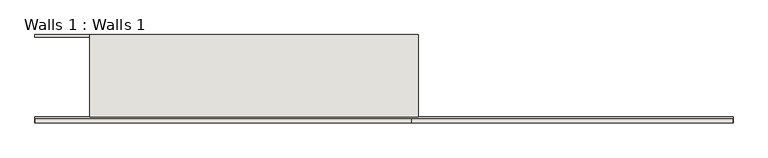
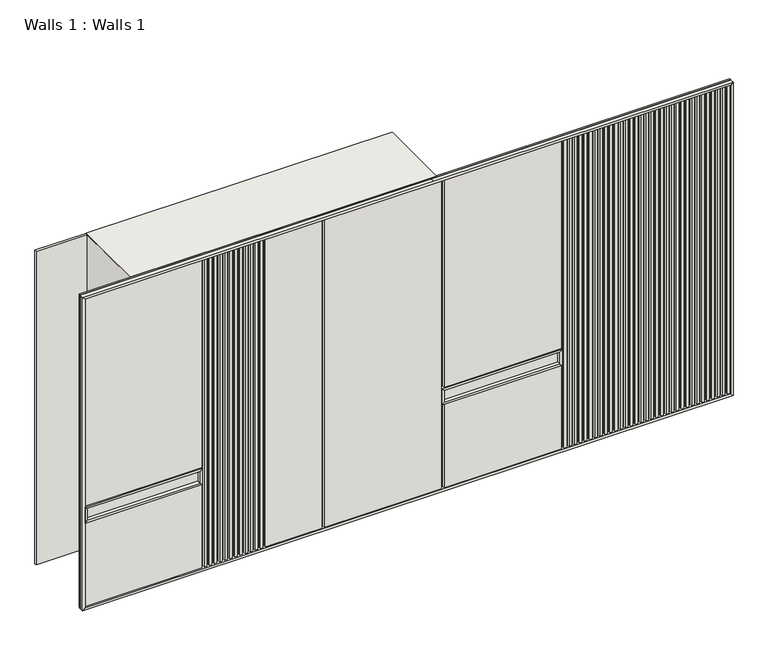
"""IFC4 building model written with IfcOpenShell, lengths in millimetres: wall geometry, Walls 1 : Walls 1."""

from ifc_helpers import new_model, si_unit, point, frame, frame_2d, origin, origin_with_axes, place, context, project, spatial, polyline, circle_curve, trimmed, segment, composite_curve, outline, extrude, faceted_brep, source, transform, mapped, element, save


def walls_1_walls_1_aaefc54a(model_context):
    return source(origin(), model_context, "Body", "SolidModel", [
        extrude(outline(polyline([(-645.57126, 2244.5768874), (126.42874, 2244.5768874), (126.42874, 1744.5768874), (-645.57126, 1744.5768874), (-645.57126, 2244.5768874)])), frame((0.0, 0.0, 1704.0), z_axis=(0.0, 0.0, 1.0), x_axis=(1.0, 0.0, 0.0)), (0.0, 0.0, 1.0), 16.0),
        extrude(outline(polyline([(-2192.47126, 2244.5768874), (-1436.57126, 2244.5768874), (-1436.57126, 1744.5768874), (-2192.47126, 1744.5768874), (-2192.47126, 2244.5768874)])), frame((0.0, 0.0, 1704.0), z_axis=(0.0, 0.0, 1.0), x_axis=(1.0, 0.0, 0.0)), (0.0, 0.0, 1.0), 16.0),
        extrude(outline(polyline([(-662.57126, 2244.5768874), (-646.57126, 2244.5768874), (-646.57126, 1744.5768874), (-662.57126, 1744.5768874), (-662.57126, 2244.5768874)])), frame((0.0, 0.0, 40.0), z_axis=(0.0, 0.0, 1.0), x_axis=(1.0, 0.0, 0.0)), (0.0, 0.0, 1.0), 2078.0),
        extrude(outline(polyline([(-1435.57126, 2244.5768874), (-1419.57126, 2244.5768874), (-1419.57126, 1744.5768874), (-1435.57126, 1744.5768874), (-1435.57126, 2244.5768874)])), frame((0.0, 0.0, 40.0), z_axis=(0.0, 0.0, 1.0), x_axis=(1.0, 0.0, 0.0)), (0.0, 0.0, 1.0), 2079.0),
        extrude(outline(polyline([(-1418.57126, 2244.5768874), (-663.57126, 2244.5768874), (-663.57126, 1744.5768874), (-1418.57126, 1744.5768874), (-1418.57126, 2244.5768874)])), frame((0.0, 0.0, 788.0), z_axis=(0.0, 0.0, 1.0), x_axis=(1.0, 0.0, 0.0)), (0.0, 0.0, 1.0), 16.0),
        extrude(outline(polyline([(-2191.57126, 2244.5768874), (-1436.57126, 2244.5768874), (-1436.57126, 1744.5768874), (-2191.57126, 1744.5768874), (-2191.57126, 2244.5768874)])), frame((0.0, 0.0, 788.0), z_axis=(0.0, 0.0, 1.0), x_axis=(1.0, 0.0, 0.0)), (0.0, 0.0, 1.0), 16.0),
        extrude(outline(polyline([(-1048.57126, 2244.5768874), (-1032.57126, 2244.5768874), (-1032.57126, 1744.5768874), (-1048.57126, 1744.5768874), (-1048.57126, 2244.5768874)])), frame((0.0, 0.0, 40.0), z_axis=(0.0, 0.0, 1.0), x_axis=(1.0, 0.0, 0.0)), (0.0, 0.0, 1.0), 747.0),
        extrude(outline(polyline([(-1031.57126, 2244.5768874), (-663.57126, 2244.5768874), (-663.57126, 1744.5768874), (-1031.57126, 1744.5768874), (-1031.57126, 2244.5768874)])), frame((0.0, 0.0, 538.6666667), z_axis=(0.0, 0.0, 1.0), x_axis=(1.0, 0.0, 0.0)), (0.0, 0.0, 1.0), 16.0),
        extrude(outline(polyline([(-1031.57126, 2244.5768874), (-663.57126, 2244.5768874), (-663.57126, 1744.5768874), (-1031.57126, 1744.5768874), (-1031.57126, 2244.5768874)])), frame((0.0, 0.0, 289.3333333), z_axis=(0.0, 0.0, 1.0), x_axis=(1.0, 0.0, 0.0)), (0.0, 0.0, 1.0), 16.0),
        extrude(outline(polyline([(-1418.57126, 2244.5768874), (-1049.57126, 2244.5768874), (-1049.57126, 1744.5768874), (-1418.57126, 1744.5768874), (-1418.57126, 2244.5768874)])), frame((0.0, 0.0, 538.6666667), z_axis=(0.0, 0.0, 1.0), x_axis=(1.0, 0.0, 0.0)), (0.0, 0.0, 1.0), 16.0),
        extrude(outline(polyline([(-1418.57126, 2244.5768874), (-1049.57126, 2244.5768874), (-1049.57126, 1744.5768874), (-1418.57126, 1744.5768874), (-1418.57126, 2244.5768874)])), frame((0.0, 0.0, 289.3333333), z_axis=(0.0, 0.0, 1.0), x_axis=(1.0, 0.0, 0.0)), (0.0, 0.0, 1.0), 16.0),
        extrude(outline(polyline([(-1418.57126, 2244.5768874), (-663.57126, 2244.5768874), (-663.57126, 1744.5768874), (-1418.57126, 1744.5768874), (-1418.57126, 2244.5768874)])), frame((0.0, 0.0, 1704.0), z_axis=(0.0, 0.0, 1.0), x_axis=(1.0, 0.0, 0.0)), (0.0, 0.0, 1.0), 16.0),
        extrude(outline(polyline([(-2162.57126, 2328.5768874), (-1322.57126, 2328.5768874), (-1322.57126, 2322.5768874), (-2162.57126, 2322.5768874), (-2162.57126, 2328.5768874)])), frame((0.0, 0.0, 65.0), z_axis=(0.0, 0.0, 1.0), x_axis=(1.0, 0.0, 0.0)), (0.0, 0.0, 1.0), 2030.0),
        extrude(outline(polyline([(-1757.576549, 2334.5768874), (-1744.6735428, 2334.5768874), (-1744.6735428, 2316.5768874), (-1757.576549, 2316.5768874), (-1757.576549, 2334.5768874)])), frame((0.0, 0.0, 2120.0), z_axis=(0.0, 0.0, 1.0), x_axis=(1.0, 0.0, 0.0)), (0.0, 0.0, 1.0), 1.94884),
        extrude(outline(composite_curve([segment(trimmed(circle_curve(frame_2d((2125.9598198, -1751.123831)), 4.0401802), [point((2125.9598198, -1755.1640112))], [point((2125.9598198, -1747.0836508))], False, "CARTESIAN"), True, "CONTINUOUS"), segment(trimmed(circle_curve(frame_2d((2125.9598198, -1751.123831)), 4.0401802), [point((2125.9598198, -1747.0836508))], [point((2125.9598198, -1755.1640112))], False, "CARTESIAN"), True, "CONTINUOUS")], self_intersect=False)), frame((0.0, 2320.5768874, 0.0), z_axis=(0.0, 1.0, 0.0), x_axis=(0.0, 0.0, 1.0)), (0.0, 0.0, 1.0), 10.0),
        extrude(outline(polyline([(-2147.576549, 2334.5768874), (-2134.6735428, 2334.5768874), (-2134.6735428, 2316.5768874), (-2147.576549, 2316.5768874), (-2147.576549, 2334.5768874)])), frame((0.0, 0.0, 2120.0), z_axis=(0.0, 0.0, 1.0), x_axis=(1.0, 0.0, 0.0)), (0.0, 0.0, 1.0), 1.94884),
        extrude(outline(composite_curve([segment(trimmed(circle_curve(frame_2d((2125.9598198, -2141.123831)), 4.0401802), [point((2125.9598198, -2145.1640112))], [point((2125.9598198, -2137.0836508))], False, "CARTESIAN"), True, "CONTINUOUS"), segment(trimmed(circle_curve(frame_2d((2125.9598198, -2141.123831)), 4.0401802), [point((2125.9598198, -2137.0836508))], [point((2125.9598198, -2145.1640112))], False, "CARTESIAN"), True, "CONTINUOUS")], self_intersect=False)), frame((0.0, 2320.5768874, 0.0), z_axis=(0.0, 1.0, 0.0), x_axis=(0.0, 0.0, 1.0)), (0.0, 0.0, 1.0), 10.0),
        extrude(outline(polyline([(-1359.3925006, 2334.5768874), (-1346.4894944, 2334.5768874), (-1346.4894944, 2316.5768874), (-1359.3925006, 2316.5768874), (-1359.3925006, 2334.5768874)])), frame((0.0, 0.0, 2120.0), z_axis=(0.0, 0.0, 1.0), x_axis=(1.0, 0.0, 0.0)), (0.0, 0.0, 1.0), 1.94884),
        extrude(outline(composite_curve([segment(trimmed(circle_curve(frame_2d((2125.9598198, -1352.9397826)), 4.0401802), [point((2125.9598198, -1356.9799629))], [point((2125.9598198, -1348.8996024))], False, "CARTESIAN"), True, "CONTINUOUS"), segment(trimmed(circle_curve(frame_2d((2125.9598198, -1352.9397826)), 4.0401802), [point((2125.9598198, -1348.8996024))], [point((2125.9598198, -1356.9799629))], False, "CARTESIAN"), True, "CONTINUOUS")], self_intersect=False)), frame((0.0, 2320.5768874, 0.0), z_axis=(0.0, 1.0, 0.0), x_axis=(0.0, 0.0, 1.0)), (0.0, 0.0, 1.0), 10.0),
        extrude(outline(polyline([(2120.0, -1298.2783668), (2120.0, -2186.8641532), (2085.0, -2151.8641532), (2085.0, -1333.2783668), (2120.0, -1298.2783668)])), frame((0.0, 2312.5768874, 0.0), z_axis=(0.0, 1.0, 0.0), x_axis=(0.0, 0.0, 1.0)), (0.0, 0.0, 1.0), 26.0),
        extrude(outline(polyline([(2119.2928932, -2187.57126), (40.7071068, -2187.57126), (75.7071068, -2152.57126), (2084.2928932, -2152.57126), (2119.2928932, -2187.57126)])), frame((0.0, 2312.5768874, 0.0), z_axis=(0.0, 1.0, 0.0), x_axis=(0.0, 0.0, 1.0)), (0.0, 0.0, 1.0), 26.0),
        extrude(outline(polyline([(40.7071068, -1297.57126), (2119.2928932, -1297.57126), (2084.2928932, -1332.57126), (75.7071068, -1332.57126), (40.7071068, -1297.57126)])), frame((0.0, 2312.5768874, 0.0), z_axis=(0.0, 1.0, 0.0), x_axis=(0.0, 0.0, 1.0)), (0.0, 0.0, 1.0), 26.0),
        extrude(outline(polyline([(40.0, -1298.2783668), (75.0, -1333.2783668), (75.0, -2151.8641532), (40.0, -2186.8641532), (40.0, -1298.2783668)])), frame((0.0, 2312.5768874, 0.0), z_axis=(0.0, 1.0, 0.0), x_axis=(0.0, 0.0, 1.0)), (0.0, 0.0, 1.0), 26.0),
        faceted_brep([(-2232.57126, 2344.5768874, 0.7071068), (-2232.57126, 2344.5768874, 2599.2928932), (-2192.57126, 2344.5768874, 2559.2928932), (-2192.57126, 2344.5768874, 40.7071068), (-2232.57126, 1744.5768874, 0.7071068), (-2192.57126, 1744.5768874, 40.7071068), (-2192.57126, 1744.5768874, 2559.2928932), (-2232.57126, 1744.5768874, 2599.2928932)], [[[0, 1, 2, 3]], [[4, 5, 6, 7]], [[1, 0, 4, 7]], [[2, 1, 7, 6]], [[3, 2, 6, 5]], [[0, 3, 5, 4]]]),
        faceted_brep([(166.7216332, 2344.5768874, 2600.0), (126.7216332, 2344.5768874, 2560.0), (-2191.8641532, 2344.5768874, 2560.0), (-2231.8641532, 2344.5768874, 2600.0), (166.7216332, 1744.5768874, 2600.0), (-2231.8641532, 1744.5768874, 2600.0), (-2191.8641532, 1744.5768874, 2560.0), (126.7216332, 1744.5768874, 2560.0)], [[[0, 1, 2, 3]], [[4, 5, 6, 7]], [[1, 0, 4, 7]], [[2, 1, 7, 6]], [[3, 2, 6, 5]], [[0, 3, 5, 4]]]),
        faceted_brep([(167.42874, 2344.5768874, 0.7071068), (127.42874, 2344.5768874, 40.7071068), (127.42874, 2344.5768874, 2559.2928932), (167.42874, 2344.5768874, 2599.2928932), (167.42874, 1744.5768874, 0.7071068), (167.42874, 1744.5768874, 2599.2928932), (127.42874, 1744.5768874, 2559.2928932), (127.42874, 1744.5768874, 40.7071068)], [[[0, 1, 2, 3]], [[4, 5, 6, 7]], [[1, 0, 4, 7]], [[2, 1, 7, 6]], [[3, 2, 6, 5]], [[0, 3, 5, 4]]]),
        faceted_brep([(166.7216332, 2344.5768874, 0.0), (-2231.8641532, 2344.5768874, 0.0), (-2191.8641532, 2344.5768874, 40.0), (126.7216332, 2344.5768874, 40.0), (166.7216332, 1744.5768874, 0.0), (126.7216332, 1744.5768874, 40.0), (-2191.8641532, 1744.5768874, 40.0), (-2231.8641532, 1744.5768874, 0.0), (-2181.8641532, 2334.5768874, 40.0), (117.42874, 2334.5768874, 40.0), (117.42874, 2316.5768874, 40.0), (-2181.8641532, 2316.5768874, 40.0), (-2181.8641532, 2306.5768874, 40.0), (117.42874, 2306.5768874, 40.0), (117.42874, 2288.5768874, 40.0), (-2181.8641532, 2288.5768874, 40.0), (-2181.8641532, 2334.5768874, 30.0), (-2181.8641532, 2316.5768874, 30.0), (117.42874, 2316.5768874, 30.0), (117.42874, 2334.5768874, 30.0), (-2181.8641532, 2306.5768874, 30.0), (-2181.8641532, 2288.5768874, 30.0), (117.42874, 2288.5768874, 30.0), (117.42874, 2306.5768874, 30.0)], [[[0, 1, 2, 3]], [[4, 5, 6, 7]], [[1, 0, 4, 7]], [[2, 1, 7, 6]], [[3, 2, 6, 5], [8, 9, 10, 11], [12, 13, 14, 15]], [[0, 3, 5, 4]], [[16, 17, 18, 19]], [[20, 21, 22, 23]], [[16, 19, 9, 8]], [[19, 18, 10, 9]], [[18, 17, 11, 10]], [[17, 16, 8, 11]], [[20, 23, 13, 12]], [[23, 22, 14, 13]], [[22, 21, 15, 14]], [[21, 20, 12, 15]]]),
        faceted_brep([(-2191.57126, 2344.5768874, 2160.0), (126.42874, 2344.5768874, 2160.0), (126.42874, 2344.5768874, 2120.0), (-2191.57126, 2344.5768874, 2120.0), (-2191.57126, 1744.5768874, 2160.0), (-2191.57126, 1744.5768874, 2120.0), (126.42874, 1744.5768874, 2120.0), (126.42874, 1744.5768874, 2160.0)], [[[0, 1, 2, 3]], [[4, 5, 6, 7]], [[1, 0, 4, 7]], [[2, 1, 7, 6]], [[3, 2, 6, 5]], [[0, 3, 5, 4]]]),
        extrude(outline(polyline([(-2187.57126, 2344.5768874), (-1035.4647547, 2344.5768874), (-1035.4647547, 2328.5768874), (-2187.57126, 2328.5768874), (-2187.57126, 2344.5768874)])), frame((0.0, 0.0, 2165.0), z_axis=(0.0, 0.0, 1.0), x_axis=(1.0, 0.0, 0.0)), (0.0, 0.0, 1.0), 390.0),
        extrude(outline(polyline([(-1030.4647547, 2344.5768874), (122.42874, 2344.5768874), (122.42874, 2328.5768874), (-1030.4647547, 2328.5768874), (-1030.4647547, 2344.5768874)])), frame((0.0, 0.0, 2165.0), z_axis=(0.0, 0.0, 1.0), x_axis=(1.0, 0.0, 0.0)), (0.0, 0.0, 1.0), 390.0),
        extrude(outline(polyline([(-2632.57126, 2344.5768874), (-2232.57126, 2344.5768874), (-2232.57126, 2328.5768874), (-2632.57126, 2328.5768874), (-2632.57126, 2344.5768874)])), origin_with_axes(), (0.0, 0.0, 1.0), 2599.2928932),
        extrude(outline(polyline([(852.0, -2610.8641532), (836.0, -2594.8641532), (836.0, -1710.2783668), (852.0, -1694.2783668), (852.0, -2610.8641532)])), frame((0.0, 1698.5768874, 0.0), z_axis=(0.0, 1.0, 0.0), x_axis=(0.0, 0.0, 1.0)), (0.0, 0.0, 1.0), 30.0),
        extrude(outline(polyline([(851.2928932, -1693.57126), (835.2928932, -1709.57126), (736.7071068, -1709.57126), (720.7071068, -1693.57126), (851.2928932, -1693.57126)])), frame((0.0, 1698.5768874, 0.0), z_axis=(0.0, 1.0, 0.0), x_axis=(0.0, 0.0, 1.0)), (0.0, 0.0, 1.0), 30.0),
        extrude(outline(polyline([(720.0, -2610.8641532), (720.0, -1694.2783668), (736.0, -1710.2783668), (736.0, -2594.8641532), (720.0, -2610.8641532)])), frame((0.0, 1698.5768874, 0.0), z_axis=(0.0, 1.0, 0.0), x_axis=(0.0, 0.0, 1.0)), (0.0, 0.0, 1.0), 30.0),
        extrude(outline(polyline([(851.2928932, -2611.57126), (720.7071068, -2611.57126), (736.7071068, -2595.57126), (835.2928932, -2595.57126), (851.2928932, -2611.57126)])), frame((0.0, 1698.5768874, 0.0), z_axis=(0.0, 1.0, 0.0), x_axis=(0.0, 0.0, 1.0)), (0.0, 0.0, 1.0), 30.0),
        extrude(outline(polyline([(852.0, 189.1358468), (836.0, 205.1358468), (836.0, 1109.7216332), (852.0, 1125.7216332), (852.0, 189.1358468)])), frame((0.0, 1698.5768874, 0.0), z_axis=(0.0, 1.0, 0.0), x_axis=(0.0, 0.0, 1.0)), (0.0, 0.0, 1.0), 30.0),
        extrude(outline(polyline([(851.2928932, 1126.42874), (835.2928932, 1110.42874), (736.7071068, 1110.42874), (720.7071068, 1126.42874), (851.2928932, 1126.42874)])), frame((0.0, 1698.5768874, 0.0), z_axis=(0.0, 1.0, 0.0), x_axis=(0.0, 0.0, 1.0)), (0.0, 0.0, 1.0), 30.0),
        extrude(outline(polyline([(720.0, 189.1358468), (720.0, 1125.7216332), (736.0, 1109.7216332), (736.0, 205.1358468), (720.0, 189.1358468)])), frame((0.0, 1698.5768874, 0.0), z_axis=(0.0, 1.0, 0.0), x_axis=(0.0, 0.0, 1.0)), (0.0, 0.0, 1.0), 30.0),
        extrude(outline(polyline([(851.2928932, 188.42874), (720.7071068, 188.42874), (736.7071068, 204.42874), (835.2928932, 204.42874), (851.2928932, 188.42874)])), frame((0.0, 1698.5768874, 0.0), z_axis=(0.0, 1.0, 0.0), x_axis=(0.0, 0.0, 1.0)), (0.0, 0.0, 1.0), 30.0),
        extrude(outline(polyline([(2447.42874, 1708.5768874), (2427.42874, 1708.5768874), (2427.42874, 1728.5768874), (2447.42874, 1728.5768874), (2447.42874, 1708.5768874)])), frame((0.0, 0.0, 20.0), z_axis=(0.0, 0.0, 1.0), x_axis=(1.0, 0.0, 0.0)), (0.0, 0.0, 1.0), 2560.0),
        extrude(outline(polyline([(2407.42874, 1708.5768874), (2387.42874, 1708.5768874), (2387.42874, 1728.5768874), (2407.42874, 1728.5768874), (2407.42874, 1708.5768874)])), frame((0.0, 0.0, 20.0), z_axis=(0.0, 0.0, 1.0), x_axis=(1.0, 0.0, 0.0)), (0.0, 0.0, 1.0), 2560.0),
        extrude(outline(polyline([(2367.42874, 1708.5768874), (2347.42874, 1708.5768874), (2347.42874, 1728.5768874), (2367.42874, 1728.5768874), (2367.42874, 1708.5768874)])), frame((0.0, 0.0, 20.0), z_axis=(0.0, 0.0, 1.0), x_axis=(1.0, 0.0, 0.0)), (0.0, 0.0, 1.0), 2560.0),
        extrude(outline(polyline([(2327.42874, 1708.5768874), (2307.42874, 1708.5768874), (2307.42874, 1728.5768874), (2327.42874, 1728.5768874), (2327.42874, 1708.5768874)])), frame((0.0, 0.0, 20.0), z_axis=(0.0, 0.0, 1.0), x_axis=(1.0, 0.0, 0.0)), (0.0, 0.0, 1.0), 2560.0),
        extrude(outline(polyline([(2287.42874, 1708.5768874), (2267.42874, 1708.5768874), (2267.42874, 1728.5768874), (2287.42874, 1728.5768874), (2287.42874, 1708.5768874)])), frame((0.0, 0.0, 20.0), z_axis=(0.0, 0.0, 1.0), x_axis=(1.0, 0.0, 0.0)), (0.0, 0.0, 1.0), 2560.0),
        extrude(outline(polyline([(2247.42874, 1708.5768874), (2227.42874, 1708.5768874), (2227.42874, 1728.5768874), (2247.42874, 1728.5768874), (2247.42874, 1708.5768874)])), frame((0.0, 0.0, 20.0), z_axis=(0.0, 0.0, 1.0), x_axis=(1.0, 0.0, 0.0)), (0.0, 0.0, 1.0), 2560.0),
        extrude(outline(polyline([(2207.42874, 1708.5768874), (2187.42874, 1708.5768874), (2187.42874, 1728.5768874), (2207.42874, 1728.5768874), (2207.42874, 1708.5768874)])), frame((0.0, 0.0, 20.0), z_axis=(0.0, 0.0, 1.0), x_axis=(1.0, 0.0, 0.0)), (0.0, 0.0, 1.0), 2560.0),
        extrude(outline(polyline([(2167.42874, 1708.5768874), (2147.42874, 1708.5768874), (2147.42874, 1728.5768874), (2167.42874, 1728.5768874), (2167.42874, 1708.5768874)])), frame((0.0, 0.0, 20.0), z_axis=(0.0, 0.0, 1.0), x_axis=(1.0, 0.0, 0.0)), (0.0, 0.0, 1.0), 2560.0),
        extrude(outline(polyline([(2127.42874, 1708.5768874), (2107.42874, 1708.5768874), (2107.42874, 1728.5768874), (2127.42874, 1728.5768874), (2127.42874, 1708.5768874)])), frame((0.0, 0.0, 20.0), z_axis=(0.0, 0.0, 1.0), x_axis=(1.0, 0.0, 0.0)), (0.0, 0.0, 1.0), 2560.0),
        extrude(outline(polyline([(2087.42874, 1708.5768874), (2067.42874, 1708.5768874), (2067.42874, 1728.5768874), (2087.42874, 1728.5768874), (2087.42874, 1708.5768874)])), frame((0.0, 0.0, 20.0), z_axis=(0.0, 0.0, 1.0), x_axis=(1.0, 0.0, 0.0)), (0.0, 0.0, 1.0), 2560.0),
        extrude(outline(polyline([(2047.42874, 1708.5768874), (2027.42874, 1708.5768874), (2027.42874, 1728.5768874), (2047.42874, 1728.5768874), (2047.42874, 1708.5768874)])), frame((0.0, 0.0, 20.0), z_axis=(0.0, 0.0, 1.0), x_axis=(1.0, 0.0, 0.0)), (0.0, 0.0, 1.0), 2560.0),
        extrude(outline(polyline([(2007.42874, 1708.5768874), (1987.42874, 1708.5768874), (1987.42874, 1728.5768874), (2007.42874, 1728.5768874), (2007.42874, 1708.5768874)])), frame((0.0, 0.0, 20.0), z_axis=(0.0, 0.0, 1.0), x_axis=(1.0, 0.0, 0.0)), (0.0, 0.0, 1.0), 2560.0),
        extrude(outline(polyline([(1967.42874, 1708.5768874), (1947.42874, 1708.5768874), (1947.42874, 1728.5768874), (1967.42874, 1728.5768874), (1967.42874, 1708.5768874)])), frame((0.0, 0.0, 20.0), z_axis=(0.0, 0.0, 1.0), x_axis=(1.0, 0.0, 0.0)), (0.0, 0.0, 1.0), 2560.0),
        extrude(outline(polyline([(1927.42874, 1708.5768874), (1907.42874, 1708.5768874), (1907.42874, 1728.5768874), (1927.42874, 1728.5768874), (1927.42874, 1708.5768874)])), frame((0.0, 0.0, 20.0), z_axis=(0.0, 0.0, 1.0), x_axis=(1.0, 0.0, 0.0)), (0.0, 0.0, 1.0), 2560.0),
        extrude(outline(polyline([(1887.42874, 1708.5768874), (1867.42874, 1708.5768874), (1867.42874, 1728.5768874), (1887.42874, 1728.5768874), (1887.42874, 1708.5768874)])), frame((0.0, 0.0, 20.0), z_axis=(0.0, 0.0, 1.0), x_axis=(1.0, 0.0, 0.0)), (0.0, 0.0, 1.0), 2560.0),
        extrude(outline(polyline([(1847.42874, 1708.5768874), (1827.42874, 1708.5768874), (1827.42874, 1728.5768874), (1847.42874, 1728.5768874), (1847.42874, 1708.5768874)])), frame((0.0, 0.0, 20.0), z_axis=(0.0, 0.0, 1.0), x_axis=(1.0, 0.0, 0.0)), (0.0, 0.0, 1.0), 2560.0),
        extrude(outline(polyline([(1807.42874, 1708.5768874), (1787.42874, 1708.5768874), (1787.42874, 1728.5768874), (1807.42874, 1728.5768874), (1807.42874, 1708.5768874)])), frame((0.0, 0.0, 20.0), z_axis=(0.0, 0.0, 1.0), x_axis=(1.0, 0.0, 0.0)), (0.0, 0.0, 1.0), 2560.0),
        extrude(outline(polyline([(1767.42874, 1708.5768874), (1747.42874, 1708.5768874), (1747.42874, 1728.5768874), (1767.42874, 1728.5768874), (1767.42874, 1708.5768874)])), frame((0.0, 0.0, 20.0), z_axis=(0.0, 0.0, 1.0), x_axis=(1.0, 0.0, 0.0)), (0.0, 0.0, 1.0), 2560.0),
        extrude(outline(polyline([(1727.42874, 1708.5768874), (1707.42874, 1708.5768874), (1707.42874, 1728.5768874), (1727.42874, 1728.5768874), (1727.42874, 1708.5768874)])), frame((0.0, 0.0, 20.0), z_axis=(0.0, 0.0, 1.0), x_axis=(1.0, 0.0, 0.0)), (0.0, 0.0, 1.0), 2560.0),
        extrude(outline(polyline([(1687.42874, 1708.5768874), (1667.42874, 1708.5768874), (1667.42874, 1728.5768874), (1687.42874, 1728.5768874), (1687.42874, 1708.5768874)])), frame((0.0, 0.0, 20.0), z_axis=(0.0, 0.0, 1.0), x_axis=(1.0, 0.0, 0.0)), (0.0, 0.0, 1.0), 2560.0),
        extrude(outline(polyline([(1647.42874, 1708.5768874), (1627.42874, 1708.5768874), (1627.42874, 1728.5768874), (1647.42874, 1728.5768874), (1647.42874, 1708.5768874)])), frame((0.0, 0.0, 20.0), z_axis=(0.0, 0.0, 1.0), x_axis=(1.0, 0.0, 0.0)), (0.0, 0.0, 1.0), 2560.0),
        extrude(outline(polyline([(1607.42874, 1708.5768874), (1587.42874, 1708.5768874), (1587.42874, 1728.5768874), (1607.42874, 1728.5768874), (1607.42874, 1708.5768874)])), frame((0.0, 0.0, 20.0), z_axis=(0.0, 0.0, 1.0), x_axis=(1.0, 0.0, 0.0)), (0.0, 0.0, 1.0), 2560.0),
        extrude(outline(polyline([(1567.42874, 1708.5768874), (1547.42874, 1708.5768874), (1547.42874, 1728.5768874), (1567.42874, 1728.5768874), (1567.42874, 1708.5768874)])), frame((0.0, 0.0, 20.0), z_axis=(0.0, 0.0, 1.0), x_axis=(1.0, 0.0, 0.0)), (0.0, 0.0, 1.0), 2560.0),
        extrude(outline(polyline([(1527.42874, 1708.5768874), (1507.42874, 1708.5768874), (1507.42874, 1728.5768874), (1527.42874, 1728.5768874), (1527.42874, 1708.5768874)])), frame((0.0, 0.0, 20.0), z_axis=(0.0, 0.0, 1.0), x_axis=(1.0, 0.0, 0.0)), (0.0, 0.0, 1.0), 2560.0),
        extrude(outline(polyline([(1487.42874, 1708.5768874), (1467.42874, 1708.5768874), (1467.42874, 1728.5768874), (1487.42874, 1728.5768874), (1487.42874, 1708.5768874)])), frame((0.0, 0.0, 20.0), z_axis=(0.0, 0.0, 1.0), x_axis=(1.0, 0.0, 0.0)), (0.0, 0.0, 1.0), 2560.0),
        extrude(outline(polyline([(1127.42874, 1708.5768874), (207.42874, 1708.5768874), (207.42874, 1728.5768874), (1127.42874, 1728.5768874), (1127.42874, 1708.5768874)])), frame((0.0, 0.0, 852.0), z_axis=(0.0, 0.0, 1.0), x_axis=(1.0, 0.0, 0.0)), (0.0, 0.0, 1.0), 1728.0),
        extrude(outline(polyline([(1127.42874, 1708.5768874), (207.42874, 1708.5768874), (207.42874, 1728.5768874), (1127.42874, 1728.5768874), (1127.42874, 1708.5768874)])), frame((0.0, 0.0, 20.0), z_axis=(0.0, 0.0, 1.0), x_axis=(1.0, 0.0, 0.0)), (0.0, 0.0, 1.0), 700.0),
        extrude(outline(polyline([(187.42874, 1708.5768874), (-732.57126, 1708.5768874), (-732.57126, 1728.5768874), (187.42874, 1728.5768874), (187.42874, 1708.5768874)])), frame((0.0, 0.0, 20.0), z_axis=(0.0, 0.0, 1.0), x_axis=(1.0, 0.0, 0.0)), (0.0, 0.0, 1.0), 2560.0),
        extrude(outline(polyline([(-1652.57126, 1708.5768874), (-1672.57126, 1708.5768874), (-1672.57126, 1728.5768874), (-1652.57126, 1728.5768874), (-1652.57126, 1708.5768874)])), frame((0.0, 0.0, 20.0), z_axis=(0.0, 0.0, 1.0), x_axis=(1.0, 0.0, 0.0)), (0.0, 0.0, 1.0), 2560.0),
        extrude(outline(polyline([(-752.57126, 1708.5768874), (-1192.57126, 1708.5768874), (-1192.57126, 1728.5768874), (-752.57126, 1728.5768874), (-752.57126, 1708.5768874)])), frame((0.0, 0.0, 20.0), z_axis=(0.0, 0.0, 1.0), x_axis=(1.0, 0.0, 0.0)), (0.0, 0.0, 1.0), 2560.0),
        extrude(outline(polyline([(-1692.57126, 1708.5768874), (-2612.57126, 1708.5768874), (-2612.57126, 1728.5768874), (-1692.57126, 1728.5768874), (-1692.57126, 1708.5768874)])), frame((0.0, 0.0, 852.0), z_axis=(0.0, 0.0, 1.0), x_axis=(1.0, 0.0, 0.0)), (0.0, 0.0, 1.0), 1728.0),
        extrude(outline(polyline([(-1692.57126, 1708.5768874), (-2612.57126, 1708.5768874), (-2612.57126, 1728.5768874), (-1692.57126, 1728.5768874), (-1692.57126, 1708.5768874)])), frame((0.0, 0.0, 20.0), z_axis=(0.0, 0.0, 1.0), x_axis=(1.0, 0.0, 0.0)), (0.0, 0.0, 1.0), 700.0),
        extrude(outline(polyline([(-1612.57126, 1708.5768874), (-1632.57126, 1708.5768874), (-1632.57126, 1728.5768874), (-1612.57126, 1728.5768874), (-1612.57126, 1708.5768874)])), frame((0.0, 0.0, 20.0), z_axis=(0.0, 0.0, 1.0), x_axis=(1.0, 0.0, 0.0)), (0.0, 0.0, 1.0), 2560.0),
        extrude(outline(polyline([(-1572.57126, 1708.5768874), (-1592.57126, 1708.5768874), (-1592.57126, 1728.5768874), (-1572.57126, 1728.5768874), (-1572.57126, 1708.5768874)])), frame((0.0, 0.0, 20.0), z_axis=(0.0, 0.0, 1.0), x_axis=(1.0, 0.0, 0.0)), (0.0, 0.0, 1.0), 2560.0),
        extrude(outline(polyline([(-1532.57126, 1708.5768874), (-1552.57126, 1708.5768874), (-1552.57126, 1728.5768874), (-1532.57126, 1728.5768874), (-1532.57126, 1708.5768874)])), frame((0.0, 0.0, 20.0), z_axis=(0.0, 0.0, 1.0), x_axis=(1.0, 0.0, 0.0)), (0.0, 0.0, 1.0), 2560.0),
        extrude(outline(polyline([(-1492.57126, 1708.5768874), (-1512.57126, 1708.5768874), (-1512.57126, 1728.5768874), (-1492.57126, 1728.5768874), (-1492.57126, 1708.5768874)])), frame((0.0, 0.0, 20.0), z_axis=(0.0, 0.0, 1.0), x_axis=(1.0, 0.0, 0.0)), (0.0, 0.0, 1.0), 2560.0),
        extrude(outline(polyline([(-1452.57126, 1708.5768874), (-1472.57126, 1708.5768874), (-1472.57126, 1728.5768874), (-1452.57126, 1728.5768874), (-1452.57126, 1708.5768874)])), frame((0.0, 0.0, 20.0), z_axis=(0.0, 0.0, 1.0), x_axis=(1.0, 0.0, 0.0)), (0.0, 0.0, 1.0), 2560.0),
        extrude(outline(polyline([(-1412.57126, 1708.5768874), (-1432.57126, 1708.5768874), (-1432.57126, 1728.5768874), (-1412.57126, 1728.5768874), (-1412.57126, 1708.5768874)])), frame((0.0, 0.0, 20.0), z_axis=(0.0, 0.0, 1.0), x_axis=(1.0, 0.0, 0.0)), (0.0, 0.0, 1.0), 2560.0),
        extrude(outline(polyline([(-1372.57126, 1708.5768874), (-1392.57126, 1708.5768874), (-1392.57126, 1728.5768874), (-1372.57126, 1728.5768874), (-1372.57126, 1708.5768874)])), frame((0.0, 0.0, 20.0), z_axis=(0.0, 0.0, 1.0), x_axis=(1.0, 0.0, 0.0)), (0.0, 0.0, 1.0), 2560.0),
        extrude(outline(polyline([(-1332.57126, 1708.5768874), (-1352.57126, 1708.5768874), (-1352.57126, 1728.5768874), (-1332.57126, 1728.5768874), (-1332.57126, 1708.5768874)])), frame((0.0, 0.0, 20.0), z_axis=(0.0, 0.0, 1.0), x_axis=(1.0, 0.0, 0.0)), (0.0, 0.0, 1.0), 2560.0),
        extrude(outline(polyline([(-1292.57126, 1708.5768874), (-1312.57126, 1708.5768874), (-1312.57126, 1728.5768874), (-1292.57126, 1728.5768874), (-1292.57126, 1708.5768874)])), frame((0.0, 0.0, 20.0), z_axis=(0.0, 0.0, 1.0), x_axis=(1.0, 0.0, 0.0)), (0.0, 0.0, 1.0), 2560.0),
        extrude(outline(polyline([(-1252.57126, 1708.5768874), (-1272.57126, 1708.5768874), (-1272.57126, 1728.5768874), (-1252.57126, 1728.5768874), (-1252.57126, 1708.5768874)])), frame((0.0, 0.0, 20.0), z_axis=(0.0, 0.0, 1.0), x_axis=(1.0, 0.0, 0.0)), (0.0, 0.0, 1.0), 2560.0),
        extrude(outline(polyline([(-1212.57126, 1708.5768874), (-1232.57126, 1708.5768874), (-1232.57126, 1728.5768874), (-1212.57126, 1728.5768874), (-1212.57126, 1708.5768874)])), frame((0.0, 0.0, 20.0), z_axis=(0.0, 0.0, 1.0), x_axis=(1.0, 0.0, 0.0)), (0.0, 0.0, 1.0), 2560.0),
        extrude(outline(polyline([(1447.42874, 1708.5768874), (1427.42874, 1708.5768874), (1427.42874, 1728.5768874), (1447.42874, 1728.5768874), (1447.42874, 1708.5768874)])), frame((0.0, 0.0, 20.0), z_axis=(0.0, 0.0, 1.0), x_axis=(1.0, 0.0, 0.0)), (0.0, 0.0, 1.0), 2560.0),
        extrude(outline(polyline([(1407.42874, 1708.5768874), (1387.42874, 1708.5768874), (1387.42874, 1728.5768874), (1407.42874, 1728.5768874), (1407.42874, 1708.5768874)])), frame((0.0, 0.0, 20.0), z_axis=(0.0, 0.0, 1.0), x_axis=(1.0, 0.0, 0.0)), (0.0, 0.0, 1.0), 2560.0),
        extrude(outline(polyline([(1367.42874, 1708.5768874), (1347.42874, 1708.5768874), (1347.42874, 1728.5768874), (1367.42874, 1728.5768874), (1367.42874, 1708.5768874)])), frame((0.0, 0.0, 20.0), z_axis=(0.0, 0.0, 1.0), x_axis=(1.0, 0.0, 0.0)), (0.0, 0.0, 1.0), 2560.0),
        extrude(outline(polyline([(1327.42874, 1708.5768874), (1307.42874, 1708.5768874), (1307.42874, 1728.5768874), (1327.42874, 1728.5768874), (1327.42874, 1708.5768874)])), frame((0.0, 0.0, 20.0), z_axis=(0.0, 0.0, 1.0), x_axis=(1.0, 0.0, 0.0)), (0.0, 0.0, 1.0), 2560.0),
        extrude(outline(polyline([(1287.42874, 1708.5768874), (1267.42874, 1708.5768874), (1267.42874, 1728.5768874), (1287.42874, 1728.5768874), (1287.42874, 1708.5768874)])), frame((0.0, 0.0, 20.0), z_axis=(0.0, 0.0, 1.0), x_axis=(1.0, 0.0, 0.0)), (0.0, 0.0, 1.0), 2560.0),
        extrude(outline(polyline([(1247.42874, 1708.5768874), (1227.42874, 1708.5768874), (1227.42874, 1728.5768874), (1247.42874, 1728.5768874), (1247.42874, 1708.5768874)])), frame((0.0, 0.0, 20.0), z_axis=(0.0, 0.0, 1.0), x_axis=(1.0, 0.0, 0.0)), (0.0, 0.0, 1.0), 2560.0),
        extrude(outline(polyline([(1207.42874, 1708.5768874), (1187.42874, 1708.5768874), (1187.42874, 1728.5768874), (1207.42874, 1728.5768874), (1207.42874, 1708.5768874)])), frame((0.0, 0.0, 20.0), z_axis=(0.0, 0.0, 1.0), x_axis=(1.0, 0.0, 0.0)), (0.0, 0.0, 1.0), 2560.0),
        extrude(outline(polyline([(1167.42874, 1708.5768874), (1147.42874, 1708.5768874), (1147.42874, 1728.5768874), (1167.42874, 1728.5768874), (1167.42874, 1708.5768874)])), frame((0.0, 0.0, 20.0), z_axis=(0.0, 0.0, 1.0), x_axis=(1.0, 0.0, 0.0)), (0.0, 0.0, 1.0), 2560.0),
        extrude(outline(polyline([(2600.0, -2631.8641532), (2580.0, -2611.8641532), (2580.0, 254.1309873), (2580.0, 2446.7216332), (2600.0, 2466.7216332), (2600.0, 120.3017611), (2600.0, -2631.8641532)])), frame((0.0, 1698.5768874, 0.0), z_axis=(0.0, 1.0, 0.0), x_axis=(0.0, 0.0, 1.0)), (0.0, 0.0, 1.0), 30.0),
        extrude(outline(polyline([(2579.2928932, -2612.57126), (2599.2928932, -2632.57126), (0.7071068, -2632.57126), (20.7071068, -2612.57126), (2579.2928932, -2612.57126)])), frame((0.0, 1698.5768874, 0.0), z_axis=(0.0, 1.0, 0.0), x_axis=(0.0, 0.0, 1.0)), (0.0, 0.0, 1.0), 30.0),
        extrude(outline(polyline([(20.7071068, 2447.42874), (0.7071068, 2467.42874), (2599.2928932, 2467.42874), (2579.2928932, 2447.42874), (20.7071068, 2447.42874)])), frame((0.0, 1698.5768874, 0.0), z_axis=(0.0, 1.0, 0.0), x_axis=(0.0, 0.0, 1.0)), (0.0, 0.0, 1.0), 30.0),
        extrude(outline(polyline([(0.0, -2631.8641532), (0.0, 314.9364029), (0.0, 2466.7216332), (20.0, 2446.7216332), (20.0, 325.3778795), (20.0, -2611.8641532), (0.0, -2631.8641532)])), frame((0.0, 1698.5768874, 0.0), z_axis=(0.0, 1.0, 0.0), x_axis=(0.0, 0.0, 1.0)), (0.0, 0.0, 1.0), 30.0),
        extrude(outline(polyline([(-2632.57126, 1744.5768874), (2467.42874, 1744.5768874), (2467.42874, 1728.5768874), (-2632.57126, 1728.5768874), (-2632.57126, 1744.5768874)])), origin_with_axes(), (0.0, 0.0, 1.0), 2600.0),
    ])


if __name__ == "__main__":
    model = new_model("IFC4")
    model_context = context("Model", 3, world=origin())
    ifc_project = project(units=[si_unit("LENGTHUNIT", "METRE", prefix="MILLI")], contexts=[model_context])
    site = spatial("IfcSite", under=ifc_project)
    building = spatial("IfcBuilding", under=site)
    placement = place(None, origin())
    walls_1_walls_1_shape = walls_1_walls_1_aaefc54a(model_context)
    element("IfcWall", 1, ObjectType="Walls 1 : Walls 1", at=placement, inside=building, context=model_context, shape_type="MappedRepresentation", body=[
        mapped(walls_1_walls_1_shape, transform((0.0, 0.0, 0.0), x_axis=(1.0, 0.0, 0.0), y_axis=(0.0, 1.0, 0.0), z_axis=(0.0, 0.0, 1.0))),
    ])
    save(model, "model.ifc")
